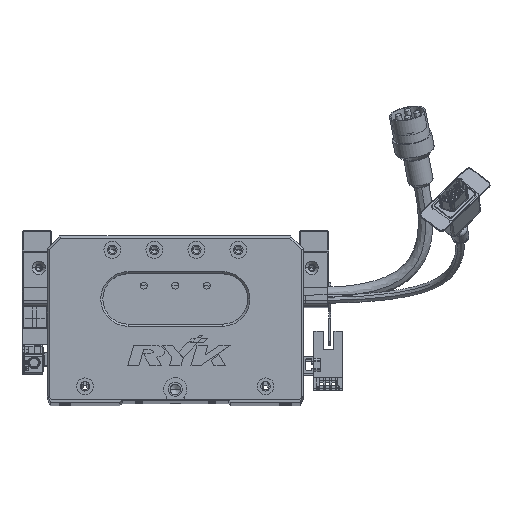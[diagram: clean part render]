
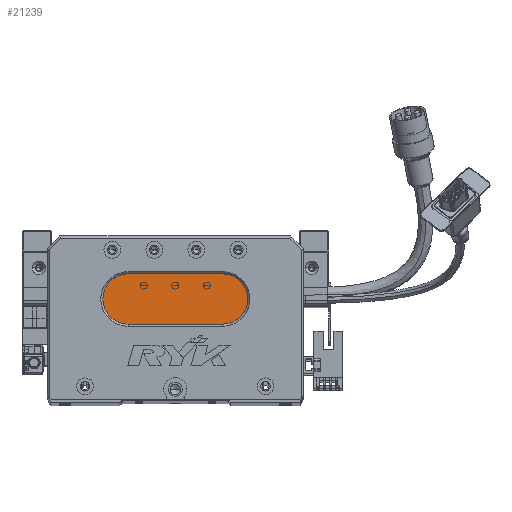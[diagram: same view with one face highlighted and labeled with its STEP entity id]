
A CAD part, top view. The second image highlights one B-rep face of the part: STEP entity #21239.
In plain terms, the highlighted planar face has unit normal (0, 0, 1) as drawn and (0, 0, -1) by its records, which use the part's own axes.
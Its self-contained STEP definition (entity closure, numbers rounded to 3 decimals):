
#2426 = DIRECTION ( 'NONE',  ( -1., 0., 0. ) ) ;
#4111 = AXIS2_PLACEMENT_3D ( 'NONE', #29087, #16296, #35504 ) ;
#5227 = CARTESIAN_POINT ( 'NONE',  ( 26.5, 48., 13. ) ) ;
#5234 = CARTESIAN_POINT ( 'NONE',  ( 83.5, 36., 13. ) ) ;
#7214 = DIRECTION ( 'NONE',  ( -1., 0., 0. ) ) ;
#9330 = CARTESIAN_POINT ( 'NONE',  ( 83.5, 48., 13. ) ) ;
#15482 = DIRECTION ( 'NONE',  ( 0., 0., -1. ) ) ;
#16296 = DIRECTION ( 'NONE',  ( 0., 0., -1. ) ) ;
#19141 = VERTEX_POINT ( 'NONE', #5227 ) ;
#20281 = PLANE ( 'NONE',  #40947 ) ;
#21239 = ADVANCED_FACE ( 'NONE', ( #48773 ), #20281, .T. ) ;
#23645 = CARTESIAN_POINT ( 'NONE',  ( 83.5, 60., 13. ) ) ;
#25370 = VERTEX_POINT ( 'NONE', #75591 ) ;
#25958 = DIRECTION ( 'NONE',  ( -1., 0., 0. ) ) ;
#26670 = DIRECTION ( 'NONE',  ( 0., 0., -1. ) ) ;
#28522 = VECTOR ( 'NONE', #25958, 1000. ) ;
#29087 = CARTESIAN_POINT ( 'NONE',  ( 38.5, 48., 13. ) ) ;
#30839 = ORIENTED_EDGE ( 'NONE', *, *, #43243, .T. ) ;
#32617 = ORIENTED_EDGE ( 'NONE', *, *, #33902, .T. ) ;
#32738 = CIRCLE ( 'NONE', #4111, 12. ) ;
#33902 = EDGE_CURVE ( 'NONE', #47355, #25370, #37841, .T. ) ;
#34225 = DIRECTION ( 'NONE',  ( 0., 0., -1. ) ) ;
#35504 = DIRECTION ( 'NONE',  ( -1., 0., 0. ) ) ;
#37841 = LINE ( 'NONE', #23645, #47786 ) ;
#39227 = CARTESIAN_POINT ( 'NONE',  ( 83.5, 48., 13. ) ) ;
#40947 = AXIS2_PLACEMENT_3D ( 'NONE', #39227, #26670, #7214 ) ;
#42080 = CARTESIAN_POINT ( 'NONE',  ( 38.5, 60., 13. ) ) ;
#43243 = EDGE_CURVE ( 'NONE', #25370, #52690, #46640, .T. ) ;
#45153 = CARTESIAN_POINT ( 'NONE',  ( 83.5, 36., 13. ) ) ;
#46458 = CARTESIAN_POINT ( 'NONE',  ( 38.5, 48., 13. ) ) ;
#46640 = CIRCLE ( 'NONE', #53207, 12. ) ;
#47355 = VERTEX_POINT ( 'NONE', #42080 ) ;
#47786 = VECTOR ( 'NONE', #62584, 1000. ) ;
#48651 = EDGE_LOOP ( 'NONE', ( #30839, #49010, #73091, #55798, #32617 ) ) ;
#48773 = FACE_OUTER_BOUND ( 'NONE', #48651, .T. ) ;
#49010 = ORIENTED_EDGE ( 'NONE', *, *, #79486, .T. ) ;
#49482 = EDGE_CURVE ( 'NONE', #19141, #47355, #53314, .T. ) ;
#51854 = AXIS2_PLACEMENT_3D ( 'NONE', #46458, #34225, #59278 ) ;
#52359 = LINE ( 'NONE', #45153, #28522 ) ;
#52690 = VERTEX_POINT ( 'NONE', #5234 ) ;
#53207 = AXIS2_PLACEMENT_3D ( 'NONE', #9330, #15482, #2426 ) ;
#53314 = CIRCLE ( 'NONE', #51854, 12. ) ;
#55798 = ORIENTED_EDGE ( 'NONE', *, *, #49482, .T. ) ;
#56748 = CARTESIAN_POINT ( 'NONE',  ( 38.5, 36., 13. ) ) ;
#59278 = DIRECTION ( 'NONE',  ( -1., 0., 0. ) ) ;
#62584 = DIRECTION ( 'NONE',  ( 1., 0., 0. ) ) ;
#72785 = EDGE_CURVE ( 'NONE', #80034, #19141, #32738, .T. ) ;
#73091 = ORIENTED_EDGE ( 'NONE', *, *, #72785, .T. ) ;
#75591 = CARTESIAN_POINT ( 'NONE',  ( 83.5, 60., 13. ) ) ;
#79486 = EDGE_CURVE ( 'NONE', #52690, #80034, #52359, .T. ) ;
#80034 = VERTEX_POINT ( 'NONE', #56748 ) ;
